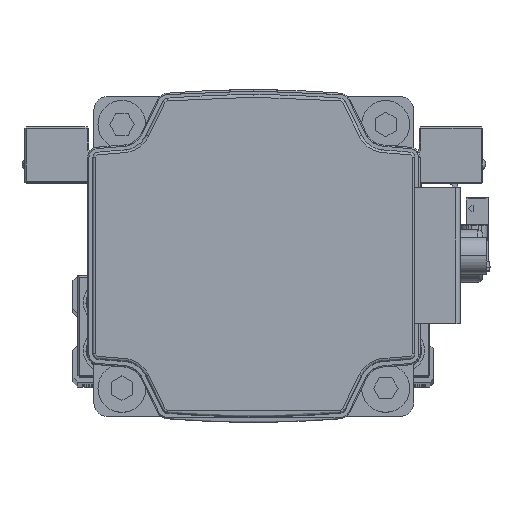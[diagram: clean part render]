
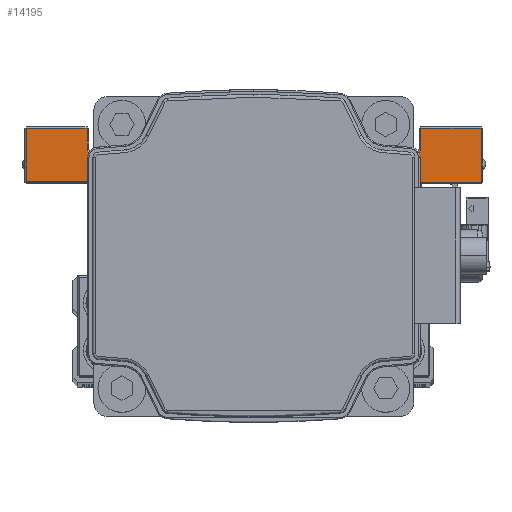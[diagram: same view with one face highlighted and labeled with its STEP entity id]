
A CAD part, top view. The second image highlights one B-rep face of the part: STEP entity #14195.
In plain terms, the highlighted planar face has unit normal (0, 0, 1) as drawn and (1, 0, 0) by its records, which use the part's own axes.
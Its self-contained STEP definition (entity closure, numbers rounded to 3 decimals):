
#260 = LINE ( 'NONE', #13011, #30992 ) ;
#268 = CARTESIAN_POINT ( 'NONE',  ( 45., 7.5, 31.3 ) ) ;
#759 = DIRECTION ( 'NONE',  ( 0., 0., 1. ) ) ;
#1027 = CARTESIAN_POINT ( 'NONE',  ( 45., 17.7, 31.3 ) ) ;
#1183 = LINE ( 'NONE', #13934, #14662 ) ;
#1195 = VERTEX_POINT ( 'NONE', #31706 ) ;
#1296 = EDGE_CURVE ( 'NONE', #19421, #25858, #16643, .T. ) ;
#1732 = ORIENTED_EDGE ( 'NONE', *, *, #24347, .T. ) ;
#3053 = ORIENTED_EDGE ( 'NONE', *, *, #1296, .T. ) ;
#3273 = EDGE_CURVE ( 'NONE', #6358, #24160, #26376, .T. ) ;
#4860 = DIRECTION ( 'NONE',  ( 0., 0., 1. ) ) ;
#5089 = CARTESIAN_POINT ( 'NONE',  ( 45., 7.5, -19.7 ) ) ;
#6212 = LINE ( 'NONE', #18977, #30358 ) ;
#6358 = VERTEX_POINT ( 'NONE', #40312 ) ;
#6624 = CARTESIAN_POINT ( 'NONE',  ( 45., 7.5, 19.7 ) ) ;
#6812 = ORIENTED_EDGE ( 'NONE', *, *, #26505, .T. ) ;
#6962 = ORIENTED_EDGE ( 'NONE', *, *, #27444, .T. ) ;
#7040 = CARTESIAN_POINT ( 'NONE',  ( 45., 7.5, -20. ) ) ;
#7521 = DIRECTION ( 'NONE',  ( -1., 0., 0. ) ) ;
#7969 = VECTOR ( 'NONE', #19388, 1000. ) ;
#8240 = CARTESIAN_POINT ( 'NONE',  ( 45., 7.5, -19.7 ) ) ;
#8318 = DIRECTION ( 'NONE',  ( 0., 0., 1. ) ) ;
#8365 = AXIS2_PLACEMENT_3D ( 'NONE', #24189, #36947, #8318 ) ;
#8667 = ORIENTED_EDGE ( 'NONE', *, *, #10907, .T. ) ;
#8856 = ORIENTED_EDGE ( 'NONE', *, *, #3273, .T. ) ;
#9495 = ORIENTED_EDGE ( 'NONE', *, *, #37653, .T. ) ;
#9771 = CARTESIAN_POINT ( 'NONE',  ( 45., -8.2, -19.7 ) ) ;
#10049 = VERTEX_POINT ( 'NONE', #5089 ) ;
#10867 = CARTESIAN_POINT ( 'NONE',  ( 45., 7.5, -31.3 ) ) ;
#10907 = EDGE_CURVE ( 'NONE', #23255, #28950, #16386, .T. ) ;
#11070 = CARTESIAN_POINT ( 'NONE',  ( 45., 17.7, -42.7 ) ) ;
#11977 = EDGE_CURVE ( 'NONE', #25858, #1195, #12786, .T. ) ;
#12786 = LINE ( 'NONE', #25518, #36237 ) ;
#13011 = CARTESIAN_POINT ( 'NONE',  ( 45., -8.2, -20. ) ) ;
#13023 = DIRECTION ( 'NONE',  ( 0., 1., 0. ) ) ;
#13183 = LINE ( 'NONE', #25909, #18893 ) ;
#13388 = VECTOR ( 'NONE', #39106, 1000. ) ;
#13613 = LINE ( 'NONE', #26356, #13388 ) ;
#13934 = CARTESIAN_POINT ( 'NONE',  ( 45., 7.5, 43. ) ) ;
#14195 = ADVANCED_FACE ( 'NONE', ( #22933 ), #35683, .F. ) ;
#14662 = VECTOR ( 'NONE', #26678, 1000. ) ;
#14767 = EDGE_CURVE ( 'NONE', #20725, #37046, #13183, .T. ) ;
#14849 = EDGE_CURVE ( 'NONE', #37046, #6358, #39488, .T. ) ;
#14963 = ORIENTED_EDGE ( 'NONE', *, *, #11977, .T. ) ;
#15799 = CARTESIAN_POINT ( 'NONE',  ( 45., -8.2, 19.7 ) ) ;
#16126 = EDGE_CURVE ( 'NONE', #24160, #23255, #20736, .T. ) ;
#16386 = CIRCLE ( 'NONE', #39746, 1.3 ) ;
#16643 = LINE ( 'NONE', #29380, #17517 ) ;
#17412 = ORIENTED_EDGE ( 'NONE', *, *, #14767, .T. ) ;
#17517 = VECTOR ( 'NONE', #759, 1000. ) ;
#18893 = VECTOR ( 'NONE', #38665, 1000. ) ;
#18924 = EDGE_CURVE ( 'NONE', #25458, #20725, #13613, .T. ) ;
#18977 = CARTESIAN_POINT ( 'NONE',  ( 45., 7.8, 20. ) ) ;
#19388 = DIRECTION ( 'NONE',  ( 0., -1., 0. ) ) ;
#19421 = VERTEX_POINT ( 'NONE', #1027 ) ;
#19757 = CARTESIAN_POINT ( 'NONE',  ( 45., 17.7, 42.7 ) ) ;
#19797 = DIRECTION ( 'NONE',  ( -1., 0., 0. ) ) ;
#20273 = DIRECTION ( 'NONE',  ( 0., 0., 1. ) ) ;
#20725 = VERTEX_POINT ( 'NONE', #11070 ) ;
#20736 = LINE ( 'NONE', #33481, #26594 ) ;
#20778 = EDGE_LOOP ( 'NONE', ( #34419, #1732, #23652, #17412, #35891, #8856, #37292, #8667, #9495, #3053, #14963, #6812, #33630, #6962 ) ) ;
#20984 = DIRECTION ( 'NONE',  ( 0., 1., 0. ) ) ;
#21084 = CARTESIAN_POINT ( 'NONE',  ( 45., 17.7, -31.3 ) ) ;
#22134 = VECTOR ( 'NONE', #13023, 1000. ) ;
#22933 = FACE_OUTER_BOUND ( 'NONE', #20778, .T. ) ;
#23255 = VERTEX_POINT ( 'NONE', #25940 ) ;
#23615 = VERTEX_POINT ( 'NONE', #40971 ) ;
#23616 = DIRECTION ( 'NONE',  ( 0., -1., 0. ) ) ;
#23652 = ORIENTED_EDGE ( 'NONE', *, *, #18924, .T. ) ;
#24160 = VERTEX_POINT ( 'NONE', #41326 ) ;
#24189 = CARTESIAN_POINT ( 'NONE',  ( 45., 14., -30. ) ) ;
#24193 = EDGE_CURVE ( 'NONE', #23615, #26998, #35269, .T. ) ;
#24347 = EDGE_CURVE ( 'NONE', #10049, #25458, #1183, .T. ) ;
#25458 = VERTEX_POINT ( 'NONE', #35885 ) ;
#25518 = CARTESIAN_POINT ( 'NONE',  ( 45., 7.5, 42.7 ) ) ;
#25748 = DIRECTION ( 'NONE',  ( 0., 0., -1. ) ) ;
#25858 = VERTEX_POINT ( 'NONE', #19757 ) ;
#25909 = CARTESIAN_POINT ( 'NONE',  ( 45., 17.7, -20. ) ) ;
#25940 = CARTESIAN_POINT ( 'NONE',  ( 45., 12.7, 30. ) ) ;
#26356 = CARTESIAN_POINT ( 'NONE',  ( 45., 7.5, -42.7 ) ) ;
#26376 = CIRCLE ( 'NONE', #8365, 1.3 ) ;
#26505 = EDGE_CURVE ( 'NONE', #1195, #23615, #6212, .T. ) ;
#26594 = VECTOR ( 'NONE', #4860, 1000. ) ;
#26678 = DIRECTION ( 'NONE',  ( 0., 0., -1. ) ) ;
#26998 = VERTEX_POINT ( 'NONE', #15799 ) ;
#27444 = EDGE_CURVE ( 'NONE', #26998, #27798, #260, .T. ) ;
#27798 = VERTEX_POINT ( 'NONE', #9771 ) ;
#28878 = LINE ( 'NONE', #268, #22134 ) ;
#28950 = VERTEX_POINT ( 'NONE', #30741 ) ;
#29380 = CARTESIAN_POINT ( 'NONE',  ( 45., 17.7, -20. ) ) ;
#29398 = VECTOR ( 'NONE', #20984, 1000. ) ;
#30358 = VECTOR ( 'NONE', #31713, 1000. ) ;
#30741 = CARTESIAN_POINT ( 'NONE',  ( 45., 14., 31.3 ) ) ;
#30992 = VECTOR ( 'NONE', #25748, 1000. ) ;
#31706 = CARTESIAN_POINT ( 'NONE',  ( 45., 7.8, 42.7 ) ) ;
#31713 = DIRECTION ( 'NONE',  ( 0., 0., -1. ) ) ;
#32526 = DIRECTION ( 'NONE',  ( 0., 0., 1. ) ) ;
#32899 = VECTOR ( 'NONE', #23616, 1000. ) ;
#33481 = CARTESIAN_POINT ( 'NONE',  ( 45., 12.7, 30. ) ) ;
#33630 = ORIENTED_EDGE ( 'NONE', *, *, #24193, .T. ) ;
#34419 = ORIENTED_EDGE ( 'NONE', *, *, #40395, .T. ) ;
#35269 = LINE ( 'NONE', #6624, #7969 ) ;
#35683 = PLANE ( 'NONE',  #40876 ) ;
#35885 = CARTESIAN_POINT ( 'NONE',  ( 45., 7.5, -42.7 ) ) ;
#35891 = ORIENTED_EDGE ( 'NONE', *, *, #14849, .T. ) ;
#36152 = CARTESIAN_POINT ( 'NONE',  ( 45., 14., 30. ) ) ;
#36237 = VECTOR ( 'NONE', #38282, 1000. ) ;
#36870 = LINE ( 'NONE', #8240, #29398 ) ;
#36947 = DIRECTION ( 'NONE',  ( -1., 0., 0. ) ) ;
#37046 = VERTEX_POINT ( 'NONE', #21084 ) ;
#37292 = ORIENTED_EDGE ( 'NONE', *, *, #16126, .T. ) ;
#37653 = EDGE_CURVE ( 'NONE', #28950, #19421, #28878, .T. ) ;
#38282 = DIRECTION ( 'NONE',  ( 0., -1., 0. ) ) ;
#38665 = DIRECTION ( 'NONE',  ( 0., 0., 1. ) ) ;
#39106 = DIRECTION ( 'NONE',  ( 0., 1., 0. ) ) ;
#39488 = LINE ( 'NONE', #10867, #32899 ) ;
#39746 = AXIS2_PLACEMENT_3D ( 'NONE', #36152, #7521, #20273 ) ;
#40312 = CARTESIAN_POINT ( 'NONE',  ( 45., 14., -31.3 ) ) ;
#40395 = EDGE_CURVE ( 'NONE', #27798, #10049, #36870, .T. ) ;
#40876 = AXIS2_PLACEMENT_3D ( 'NONE', #7040, #19797, #32526 ) ;
#40971 = CARTESIAN_POINT ( 'NONE',  ( 45., 7.8, 19.7 ) ) ;
#41326 = CARTESIAN_POINT ( 'NONE',  ( 45., 12.7, -30. ) ) ;
